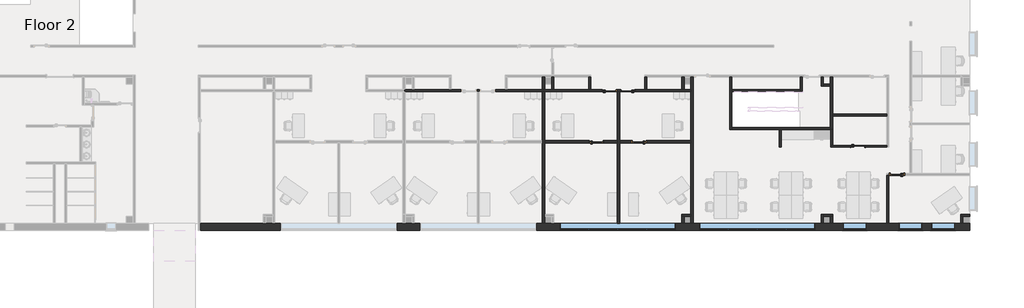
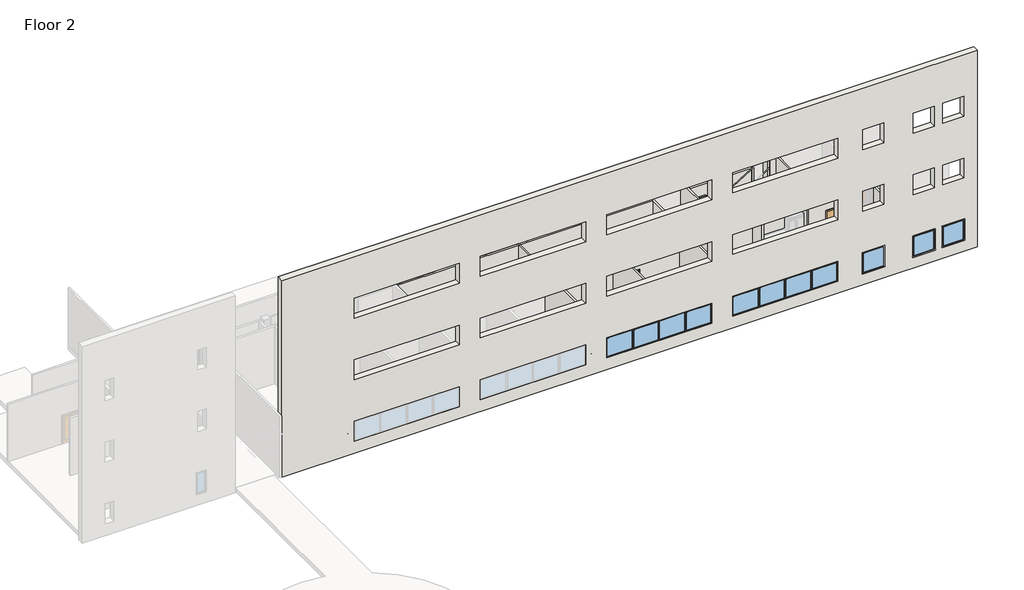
# One storey, part 3 of 7: 31 walls, 6 doors, 5 windows.
"""IFC4 building model written with IfcOpenShell, lengths in millimetres."""

from ifc_helpers import new_model, si_unit, frame, origin, place, context, project, spatial, polyline, outline, extrude, faceted_brep, transform, mapped, element, save
from components import door_a8315dbd, door_4cfbdd5f, door_4a7c4c71, door_dac99271, window_casement_multi_sash_horizontal_25_x_5ft_0e5d08e3, window_45f0c9e0

model = new_model("IFC4")

# Units and contexts
model_context = context("Model", 3, world=origin())
ifc_project = project(units=[si_unit("LENGTHUNIT", "METRE", prefix="MILLI")], contexts=[model_context])

# Site, building, storey
site = spatial("IfcSite", under=ifc_project)
building = spatial("IfcBuilding", under=site)
storey = spatial("IfcBuildingStorey", under=building, Name="Floor 2", Elevation=5486.4)

# Doors
placement = place(None, origin())
door_shape = door_a8315dbd(model_context)
element("IfcDoor", 1, ObjectType="Door-Passage-Single-Flush : 36\" x 84\"", at=placement, inside=storey, context=model_context, shape_type="MappedRepresentation", body=[
    mapped(door_shape, transform((54154.4192024, 43674.511889, 5486.4), x_axis=(1.0, 0.0, 0.0), y_axis=(0.0, 1.0, 0.0), z_axis=(0.0, 0.0, 1.0))),
])
door_2_shape = door_4cfbdd5f(model_context)
element("IfcDoor", 2, ObjectType="Door-Passage-Single-Full_Lite : 36\" x 84\"", at=placement, inside=storey, context=model_context, shape_type="MappedRepresentation", body=[
    mapped(door_2_shape, transform((37853.9692024, 47338.461889, 5486.4), x_axis=(1.0, 0.0, 0.0), y_axis=(0.0, 1.0, 0.0), z_axis=(0.0, 0.0, 1.0))),
])
element("IfcDoor", 3, ObjectType="Door-Passage-Single-Full_Lite : 36\" x 84\"", at=placement, inside=storey, context=model_context, shape_type="MappedRepresentation", body=[
    mapped(door_2_shape, transform((37015.7692024, 43985.661889, 5486.4), x_axis=(1.0, 0.0, 0.0), y_axis=(0.0, 1.0, 0.0), z_axis=(0.0, 0.0, 1.0))),
])
door_3_shape = door_4a7c4c71(model_context)
element("IfcDoor", 4, ObjectType="Door-Passage-Single-Full_Lite : 36\" x 84\"", at=placement, inside=storey, context=model_context, shape_type="MappedRepresentation", body=[
    mapped(door_3_shape, transform((39073.1692024, 47338.461889, 5486.4), x_axis=(-1.0, 0.0, 0.0), y_axis=(0.0, -1.0, 0.0), z_axis=(0.0, 0.0, 1.0))),
])
element("IfcDoor", 5, ObjectType="Door-Passage-Single-Full_Lite : 36\" x 84\"", at=placement, inside=storey, context=model_context, shape_type="MappedRepresentation", body=[
    mapped(door_3_shape, transform((39809.7692024, 43985.661889, 5486.4), x_axis=(-1.0, 0.0, 0.0), y_axis=(0.0, -1.0, 0.0), z_axis=(0.0, 0.0, 1.0))),
])
door_4_shape = door_dac99271(model_context)
element("IfcDoor", 6, ObjectType="Door-Passage-Single-Full_Lite : 36\" x 84\"", at=placement, inside=storey, context=model_context, shape_type="MappedRepresentation", body=[
    mapped(door_4_shape, transform((56719.8192024, 41845.711889, 5486.4), x_axis=(-1.0, 0.0, 0.0), y_axis=(0.0, -1.0, 0.0), z_axis=(0.0, 0.0, 1.0))),
])

# Walls
element("IfcWall", 7, ObjectType="Interior - 4 7/8\" Partition (1-hr)", at=placement, inside=storey, context=model_context, shape_type="Brep", body=[
    faceted_brep([(54662.4192024, 43618.949389, 7721.6), (54662.4192024, 43618.949389, 5486.4), (56048.3067024, 43618.949389, 5486.4), (56048.3067024, 43618.949389, 9906.0), (52371.6567024, 43618.949389, 9906.0), (52371.6567024, 43618.949389, 5486.4), (53646.4192024, 43618.949389, 5486.4), (53646.4192024, 43618.949389, 7721.6), (56048.3067024, 43742.774389, 5486.4), (54662.4192024, 43742.774389, 5486.4), (54662.4192024, 43742.774389, 7721.6), (53646.4192024, 43742.774389, 7721.6), (53646.4192024, 43742.774389, 5486.4), (52495.4817024, 43742.774389, 5486.4), (52371.6567024, 43742.774389, 5486.4), (52371.6567024, 43742.774389, 9906.0), (52495.4817024, 43742.774389, 9906.0), (56048.3067024, 43742.774389, 9906.0)], [[[0, 1, 2, 3, 4, 5, 6, 7]], [[8, 9, 10, 11, 12, 13, 14, 15, 16, 17]], [[2, 1, 9, 8]], [[6, 5, 14, 13, 12]], [[8, 17, 3, 2]], [[15, 14, 5, 4]], [[17, 16, 15, 4, 3]], [[10, 9, 1, 0]], [[11, 10, 0, 7]], [[12, 11, 7, 6]]]),
])
element("IfcWall", 8, ObjectType="Interior - 4 7/8\" Partition (1-hr)", at=placement, inside=storey, context=model_context, shape_type="SweptSolid", body=[
    extrude(outline(polyline([(52495.4817024, 44766.711889), (52495.4817024, 43742.774389), (52371.6567024, 43742.774389), (52371.6567024, 44766.711889), (52495.4817024, 44766.711889)])), frame((0.0, 0.0, 5486.4), z_axis=(0.0, 0.0, 1.0), x_axis=(1.0, 0.0, 0.0)), (0.0, 0.0, 1.0), 4419.6),
])
element("IfcWall", 9, ObjectType="Interior - 4 7/8\" Partition (1-hr)", at=placement, inside=storey, context=model_context, shape_type="SweptSolid", body=[
    extrude(outline(polyline([(49012.5067024, 43617.361889), (49012.5067024, 44766.711889), (49136.3317024, 44766.711889), (49136.3317024, 43617.361889), (49012.5067024, 43617.361889)])), frame((0.0, 0.0, 5486.4), z_axis=(0.0, 0.0, 1.0), x_axis=(1.0, 0.0, 0.0)), (0.0, 0.0, 1.0), 4419.6),
])
element("IfcWall", 10, ObjectType="Interior - 4 7/8\" Partition (1-hr)", at=placement, inside=storey, context=model_context, shape_type="SweptSolid", body=[
    extrude(outline(polyline([(52497.0692024, 45800.174389), (56048.3067024, 45800.174389), (56048.3067024, 45676.349389), (52497.0692024, 45676.349389), (52497.0692024, 45800.174389)])), frame((0.0, 0.0, 5486.4), z_axis=(0.0, 0.0, 1.0), x_axis=(1.0, 0.0, 0.0)), (0.0, 0.0, 1.0), 4419.6),
])
element("IfcWall", 11, ObjectType="Interior - 4 7/8\" Partition (1-hr)", at=placement, inside=storey, context=model_context, shape_type="SweptSolid", body=[
    extrude(outline(polyline([(56048.3067024, 38618.324389), (56048.3067024, 41777.449389), (56172.1317024, 41777.449389), (56172.1317024, 38618.324389), (56048.3067024, 38618.324389)])), frame((0.0, 0.0, 5486.4), z_axis=(0.0, 0.0, 1.0), x_axis=(1.0, 0.0, 0.0)), (0.0, 0.0, 1.0), 4419.6),
])
element("IfcWall", 12, ObjectType="Interior - 5 1/2\" Partition (1-hr)", at=placement, inside=storey, context=model_context, shape_type="Brep", body=[
    faceted_brep([(50382.5192024, 48221.111889, 5486.4), (50382.5192024, 47401.961889, 5486.4), (50382.5192024, 47262.261889, 5486.4), (50382.5192024, 47262.261889, 9906.0), (50382.5192024, 47401.961889, 9906.0), (50382.5192024, 48221.111889, 9906.0), (50522.2192024, 48221.111889, 5486.4), (50522.2192024, 48221.111889, 9906.0), (50522.2192024, 47262.261889, 9906.0), (50522.2192024, 47262.261889, 5486.4)], [[[0, 1, 2, 3, 4, 5]], [[6, 7, 8, 9]], [[2, 1, 0, 6, 9]], [[0, 5, 7, 6]], [[3, 2, 9, 8]], [[5, 4, 3, 8, 7]]]),
])
element("IfcWall", 13, ObjectType="Interior - 5 1/2\" Partition (1-hr)", at=placement, inside=storey, context=model_context, shape_type="Brep", body=[
    faceted_brep([(51760.4692024, 48221.111889, 5486.4), (51760.4692024, 47624.211889, 5486.4), (51760.4692024, 47624.211889, 9906.0), (51760.4692024, 48221.111889, 9906.0), (51900.1692024, 48221.111889, 5486.4), (51900.1692024, 48221.111889, 9906.0), (51900.1692024, 47763.911889, 9906.0), (51900.1692024, 47624.211889, 9906.0), (51900.1692024, 47624.211889, 5486.4), (51900.1692024, 47763.911889, 5486.4)], [[[0, 1, 2, 3]], [[4, 5, 6, 7, 8, 9]], [[1, 0, 4, 9, 8]], [[2, 1, 8, 7]], [[0, 3, 5, 4]], [[3, 2, 7, 6, 5]]]),
])
element("IfcWall", 14, ObjectType="Interior - 5 1/2\" Partition (1-hr)", at=placement, inside=storey, context=model_context, shape_type="SweptSolid", body=[
    extrude(outline(polyline([(51900.1692024, 47763.911889), (52357.3692024, 47763.911889), (52357.3692024, 47624.211889), (51900.1692024, 47624.211889), (51900.1692024, 47763.911889)])), frame((0.0, 0.0, 5486.4), z_axis=(0.0, 0.0, 1.0), x_axis=(1.0, 0.0, 0.0)), (0.0, 0.0, 1.0), 4419.6),
])
element("IfcWall", 15, ObjectType="Interior - 5 1/2\" Partition (1-hr)", at=placement, inside=storey, context=model_context, shape_type="Brep", body=[
    faceted_brep([(45759.7192024, 48221.111889, 5486.4), (45759.7192024, 44766.711889, 5486.4), (45759.7192024, 44766.711889, 9906.0), (45759.7192024, 48221.111889, 9906.0), (45899.4192024, 48221.111889, 5486.4), (45899.4192024, 48221.111889, 9906.0), (45899.4192024, 47401.961889, 9906.0), (45899.4192024, 47262.261889, 9906.0), (45899.4192024, 44906.411889, 9906.0), (45899.4192024, 44766.711889, 9906.0), (45899.4192024, 44766.711889, 5486.4), (45899.4192024, 44906.411889, 5486.4), (45899.4192024, 47262.261889, 5486.4), (45899.4192024, 47401.961889, 5486.4)], [[[0, 1, 2, 3]], [[4, 5, 6, 7, 8, 9, 10, 11, 12, 13]], [[1, 0, 4, 13, 12, 11, 10]], [[2, 1, 10, 9]], [[0, 3, 5, 4]], [[3, 2, 9, 8, 7, 6, 5]]]),
])
element("IfcWall", 16, ObjectType="Interior - 5 1/2\" Partition (1-hr)", at=placement, inside=storey, context=model_context, shape_type="Brep", body=[
    faceted_brep([(45899.4192024, 44766.711889, 5486.4), (49012.5067024, 44766.711889, 5486.4), (49136.3317024, 44766.711889, 5486.4), (52357.3692024, 44766.711889, 5486.4), (52357.3692024, 44766.711889, 9906.0), (49136.3317024, 44766.711889, 9906.0), (49012.5067024, 44766.711889, 9906.0), (45899.4192024, 44766.711889, 9906.0), (45899.4192024, 44906.411889, 5486.4), (45899.4192024, 44906.411889, 9906.0), (50327.5398084, 44906.411889, 9906.0), (52357.3692024, 44906.411889, 9906.0), (52357.3692024, 44906.411889, 5486.4)], [[[0, 1, 2, 3, 4, 5, 6, 7]], [[8, 9, 10, 11, 12]], [[3, 2, 1, 0, 8, 12]], [[0, 7, 9, 8]], [[4, 3, 12, 11]], [[7, 6, 5, 4, 11, 10, 9]]]),
])
element("IfcWall", 17, ObjectType="Interior - 5 1/2\" Partition (1-hr)", at=placement, inside=storey, context=model_context, shape_type="Brep", body=[
    faceted_brep([(45899.4192024, 47262.261889, 5486.4), (50382.5192024, 47262.261889, 5486.4), (50382.5192024, 47262.261889, 9906.0), (50269.50061, 47262.261889, 9906.0), (50253.8139908, 47262.261889, 9906.0), (45899.4192024, 47262.261889, 9906.0), (45899.4192024, 47401.961889, 5486.4), (45899.4192024, 47401.961889, 9906.0), (50382.5192024, 47401.961889, 9906.0), (50382.5192024, 47401.961889, 5486.4)], [[[0, 1, 2, 3, 4, 5]], [[6, 7, 8, 9]], [[1, 0, 6, 9]], [[2, 1, 9, 8]], [[0, 5, 7, 6]], [[5, 4, 3, 2, 8, 7]]]),
])
element("IfcWall", 18, ObjectType="Interior - 5 1/2\" Partition (1-hr)", at=placement, inside=storey, context=model_context, shape_type="Brep", body=[
    faceted_brep([(43213.3692024, 48221.111889, 5486.4), (43213.3692024, 47763.911889, 5486.4), (43213.3692024, 47401.961889, 5486.4), (43213.3692024, 47262.261889, 5486.4), (43213.3692024, 44049.161889, 5486.4), (43213.3692024, 43909.461889, 5486.4), (43213.3692024, 39216.811889, 5486.4), (43213.3692024, 39077.111889, 5486.4), (43213.3692024, 38619.911889, 5486.4), (43213.3692024, 38618.324389, 5486.4), (43213.3692024, 38618.324389, 9906.0), (43213.3692024, 39077.111889, 9906.0), (43213.3692024, 39216.811889, 9906.0), (43213.3692024, 43909.461889, 9906.0), (43213.3692024, 44049.161889, 9906.0), (43213.3692024, 47262.261889, 9906.0), (43213.3692024, 47401.961889, 9906.0), (43213.3692024, 48221.111889, 9906.0), (43353.0692024, 48221.111889, 5486.4), (43353.0692024, 48221.111889, 9906.0), (43353.0692024, 38618.324389, 9906.0), (43353.0692024, 38618.324389, 5486.4)], [[[0, 1, 2, 3, 4, 5, 6, 7, 8, 9, 10, 11, 12, 13, 14, 15, 16, 17]], [[18, 19, 20, 21]], [[9, 8, 7, 6, 5, 4, 3, 2, 1, 0, 18, 21]], [[10, 9, 21, 20]], [[0, 17, 19, 18]], [[17, 16, 15, 14, 13, 12, 11, 10, 20, 19]]]),
])
element("IfcWall", 19, ObjectType="Interior - 5 1/2\" Partition (1-hr)", at=placement, inside=storey, context=model_context, shape_type="Brep", body=[
    faceted_brep([(43213.3692024, 39216.811889, 5486.4), (42616.4692024, 39216.811889, 5486.4), (42616.4692024, 39216.811889, 9906.0), (43213.3692024, 39216.811889, 9906.0), (43213.3692024, 39077.111889, 5486.4), (43213.3692024, 39077.111889, 9906.0), (42756.1692024, 39077.111889, 9906.0), (42616.4692024, 39077.111889, 9906.0), (42616.4692024, 39077.111889, 5486.4), (42756.1692024, 39077.111889, 5486.4)], [[[0, 1, 2, 3]], [[4, 5, 6, 7, 8, 9]], [[1, 0, 4, 9, 8]], [[2, 1, 8, 7]], [[0, 3, 5, 4]], [[3, 2, 7, 6, 5]]]),
])
element("IfcWall", 20, ObjectType="Interior - 5 1/2\" Partition (1-hr)", at=placement, inside=storey, context=model_context, shape_type="Brep", body=[
    faceted_brep([(42616.4692024, 39077.111889, 5486.4), (42616.4692024, 38618.324389, 5486.4), (42616.4692024, 38618.324389, 9906.0), (42616.4692024, 39077.111889, 9906.0), (42756.1692024, 39077.111889, 5486.4), (42756.1692024, 39077.111889, 9906.0), (42756.1692024, 38618.324389, 9906.0), (42756.1692024, 38618.324389, 5486.4), (42756.1692024, 38619.911889, 5486.4)], [[[0, 1, 2, 3]], [[4, 5, 6, 7, 8]], [[1, 0, 4, 8, 7]], [[0, 3, 5, 4]], [[2, 1, 7, 6]], [[3, 2, 6, 5]]]),
])
element("IfcWall", 21, ObjectType="Interior - 5 1/2\" Partition (1-hr)", at=placement, inside=storey, context=model_context, shape_type="Brep", body=[
    faceted_brep([(24398.3192024, 47401.961889, 9906.0), (24398.3192024, 47401.961889, 5486.4), (24398.3192024, 47262.261889, 5486.4), (24398.3192024, 47262.261889, 9906.0), (29167.1692024, 47262.261889, 7721.6), (29167.1692024, 47262.261889, 5486.4), (29198.9192024, 47262.261889, 5486.4), (29338.6192024, 47262.261889, 5486.4), (29370.3692024, 47262.261889, 5486.4), (29370.3692024, 47262.261889, 7721.6), (30386.3692024, 47262.261889, 7721.6), (30386.3692024, 47262.261889, 5486.4), (33472.4692024, 47262.261889, 5486.4), (33612.1692024, 47262.261889, 5486.4), (37345.9692024, 47262.261889, 5486.4), (37345.9692024, 47262.261889, 7721.6), (38361.9692024, 47262.261889, 7721.6), (38361.9692024, 47262.261889, 5486.4), (38393.7192024, 47262.261889, 5486.4), (38533.4192024, 47262.261889, 5486.4), (38565.1692024, 47262.261889, 5486.4), (38565.1692024, 47262.261889, 7721.6), (39581.1692024, 47262.261889, 7721.6), (39581.1692024, 47262.261889, 5486.4), (43213.3692024, 47262.261889, 5486.4), (43213.3692024, 47262.261889, 9906.0), (38533.4192024, 47262.261889, 9906.0), (38393.7192024, 47262.261889, 9906.0), (33612.1692024, 47262.261889, 9906.0), (33472.4692024, 47262.261889, 9906.0), (24468.1692024, 47262.261889, 5486.4), (28151.1692024, 47262.261889, 5486.4), (28151.1692024, 47262.261889, 7721.6), (29370.3692024, 47401.961889, 5486.4), (29167.1692024, 47401.961889, 5486.4), (29167.1692024, 47401.961889, 7721.6), (28151.1692024, 47401.961889, 7721.6), (28151.1692024, 47401.961889, 5486.4), (27503.4692024, 47401.961889, 5486.4), (27363.7692024, 47401.961889, 5486.4), (25065.0692024, 47401.961889, 5486.4), (24925.3692024, 47401.961889, 5486.4), (24468.1692024, 47401.961889, 5486.4), (24468.1692024, 47401.961889, 9906.0), (24925.3692024, 47401.961889, 9906.0), (25065.0692024, 47401.961889, 9906.0), (27363.7692024, 47401.961889, 9906.0), (27503.4692024, 47401.961889, 9906.0), (31034.0692024, 47401.961889, 9906.0), (31173.7692024, 47401.961889, 9906.0), (33472.4692024, 47401.961889, 9906.0), (33612.1692024, 47401.961889, 9906.0), (34069.3692024, 47401.961889, 9906.0), (34209.0692024, 47401.961889, 9906.0), (36507.7692024, 47401.961889, 9906.0), (36647.4692024, 47401.961889, 9906.0), (40178.0692024, 47401.961889, 9906.0), (40317.7692024, 47401.961889, 9906.0), (42616.4692024, 47401.961889, 9906.0), (42756.1692024, 47401.961889, 9906.0), (43213.3692024, 47401.961889, 9906.0), (43213.3692024, 47401.961889, 5486.4), (42756.1692024, 47401.961889, 5486.4), (42616.4692024, 47401.961889, 5486.4), (40317.7692024, 47401.961889, 5486.4), (40178.0692024, 47401.961889, 5486.4), (39581.1692024, 47401.961889, 5486.4), (39581.1692024, 47401.961889, 7721.6), (38565.1692024, 47401.961889, 7721.6), (38565.1692024, 47401.961889, 5486.4), (38361.9692024, 47401.961889, 5486.4), (38361.9692024, 47401.961889, 7721.6), (37345.9692024, 47401.961889, 7721.6), (37345.9692024, 47401.961889, 5486.4), (36647.4692024, 47401.961889, 5486.4), (36507.7692024, 47401.961889, 5486.4), (34209.0692024, 47401.961889, 5486.4), (34069.3692024, 47401.961889, 5486.4), (33612.1692024, 47401.961889, 5486.4), (33472.4692024, 47401.961889, 5486.4), (31173.7692024, 47401.961889, 5486.4), (31034.0692024, 47401.961889, 5486.4), (30386.3692024, 47401.961889, 5486.4), (30386.3692024, 47401.961889, 7721.6), (29370.3692024, 47401.961889, 7721.6)], [[[0, 1, 2, 3]], [[4, 5, 6, 7, 8, 9, 10, 11, 12, 13, 14, 15, 16, 17, 18, 19, 20, 21, 22, 23, 24, 25, 26, 27, 28, 29, 3, 2, 30, 31, 32]], [[33, 34, 35, 36, 37, 38, 39, 40, 41, 42, 1, 0, 43, 44, 45, 46, 47, 48, 49, 50, 51, 52, 53, 54, 55, 56, 57, 58, 59, 60, 61, 62, 63, 64, 65, 66, 67, 68, 69, 70, 71, 72, 73, 74, 75, 76, 77, 78, 79, 80, 81, 82, 83, 84]], [[70, 69, 20, 19, 18, 17]], [[8, 7, 6, 5, 34, 33]], [[66, 65, 64, 63, 62, 61, 24, 23]], [[82, 81, 80, 79, 78, 77, 76, 75, 74, 73, 14, 13, 12, 11]], [[31, 30, 2, 1, 42, 41, 40, 39, 38, 37]], [[61, 60, 25, 24]], [[60, 59, 58, 57, 56, 55, 54, 53, 52, 51, 50, 49, 48, 47, 46, 45, 44, 43, 0, 3, 29, 28, 27, 26, 25]], [[71, 70, 17, 16]], [[72, 71, 16, 15]], [[73, 72, 15, 14]], [[21, 20, 69, 68]], [[22, 21, 68, 67]], [[23, 22, 67, 66]], [[9, 8, 33, 84]], [[10, 9, 84, 83]], [[11, 10, 83, 82]], [[35, 34, 5, 4]], [[36, 35, 4, 32]], [[37, 36, 32, 31]]]),
])
element("IfcWall", 22, ObjectType="Interior - 5 1/2\" Partition (1-hr)", at=placement, inside=storey, context=model_context, shape_type="Brep", body=[
    faceted_brep([(42756.1692024, 47401.961889, 5486.4), (42756.1692024, 47763.911889, 5486.4), (42756.1692024, 48221.111889, 5486.4), (42756.1692024, 48221.111889, 9906.0), (42756.1692024, 47401.961889, 9906.0), (42616.4692024, 47401.961889, 5486.4), (42616.4692024, 47401.961889, 9906.0), (42616.4692024, 48221.111889, 9906.0), (42616.4692024, 48221.111889, 5486.4)], [[[0, 1, 2, 3, 4]], [[5, 6, 7, 8]], [[2, 1, 0, 5, 8]], [[0, 4, 6, 5]], [[3, 2, 8, 7]], [[4, 3, 7, 6]]]),
])
element("IfcWall", 23, ObjectType="Interior - 5 1/2\" Partition (1-hr)", at=placement, inside=storey, context=model_context, shape_type="Brep", body=[
    faceted_brep([(34209.0692024, 47401.961889, 5486.4), (34209.0692024, 48221.111889, 5486.4), (34209.0692024, 48221.111889, 9906.0), (34209.0692024, 47401.961889, 9906.0), (34069.3692024, 47401.961889, 5486.4), (34069.3692024, 47401.961889, 9906.0), (34069.3692024, 48221.111889, 9906.0), (34069.3692024, 48221.111889, 5486.4), (34069.3692024, 47763.911889, 5486.4)], [[[0, 1, 2, 3]], [[4, 5, 6, 7, 8]], [[1, 0, 4, 8, 7]], [[0, 3, 5, 4]], [[2, 1, 7, 6]], [[3, 2, 6, 5]]]),
])
element("IfcWall", 24, ObjectType="Interior - 5 1/2\" Partition (1-hr)", at=placement, inside=storey, context=model_context, shape_type="Brep", body=[
    faceted_brep([(33612.1692024, 47401.961889, 5486.4), (33612.1692024, 47763.911889, 5486.4), (33612.1692024, 48221.111889, 5486.4), (33612.1692024, 48221.111889, 9906.0), (33612.1692024, 47401.961889, 9906.0), (33472.4692024, 47401.961889, 5486.4), (33472.4692024, 47401.961889, 9906.0), (33472.4692024, 48221.111889, 9906.0), (33472.4692024, 48221.111889, 5486.4)], [[[0, 1, 2, 3, 4]], [[5, 6, 7, 8]], [[2, 1, 0, 5, 8]], [[0, 4, 6, 5]], [[3, 2, 8, 7]], [[4, 3, 7, 6]]]),
])
element("IfcWall", 25, ObjectType="Interior - 5 1/2\" Partition (1-hr)", at=placement, inside=storey, context=model_context, shape_type="SweptSolid", body=[
    extrude(outline(polyline([(36647.4692024, 48221.111889), (36647.4692024, 47401.961889), (36507.7692024, 47401.961889), (36507.7692024, 48221.111889), (36647.4692024, 48221.111889)])), frame((0.0, 0.0, 5486.4), z_axis=(0.0, 0.0, 1.0), x_axis=(1.0, 0.0, 0.0)), (0.0, 0.0, 1.0), 4419.6),
])
element("IfcWall", 26, ObjectType="Interior - 5 1/2\" Partition (1-hr)", at=placement, inside=storey, context=model_context, shape_type="SweptSolid", body=[
    extrude(outline(polyline([(40317.7692024, 48221.111889), (40317.7692024, 47401.961889), (40178.0692024, 47401.961889), (40178.0692024, 48221.111889), (40317.7692024, 48221.111889)])), frame((0.0, 0.0, 5486.4), z_axis=(0.0, 0.0, 1.0), x_axis=(1.0, 0.0, 0.0)), (0.0, 0.0, 1.0), 4419.6),
])
element("IfcWall", 27, ObjectType="Interior - 5 1/2\" Partition (1-hr)", at=placement, inside=storey, context=model_context, shape_type="Brep", body=[
    faceted_brep([(33472.4692024, 47262.261889, 5486.4), (33472.4692024, 44049.161889, 5486.4), (33472.4692024, 43909.461889, 5486.4), (33472.4692024, 38618.324389, 5486.4), (33472.4692024, 38618.324389, 9906.0), (33472.4692024, 47262.261889, 9906.0), (33612.1692024, 47262.261889, 5486.4), (33612.1692024, 47262.261889, 9906.0), (33612.1692024, 44049.161889, 9906.0), (33612.1692024, 43909.461889, 9906.0), (33612.1692024, 39216.811889, 9906.0), (33612.1692024, 39077.111889, 9906.0), (33612.1692024, 38618.324389, 9906.0), (33612.1692024, 38618.324389, 5486.4), (33612.1692024, 38619.911889, 5486.4), (33612.1692024, 39077.111889, 5486.4), (33612.1692024, 39216.811889, 5486.4), (33612.1692024, 43909.461889, 5486.4), (33612.1692024, 44049.161889, 5486.4)], [[[0, 1, 2, 3, 4, 5]], [[6, 7, 8, 9, 10, 11, 12, 13, 14, 15, 16, 17, 18]], [[3, 2, 1, 0, 6, 18, 17, 16, 15, 14, 13]], [[0, 5, 7, 6]], [[4, 3, 13, 12]], [[5, 4, 12, 11, 10, 9, 8, 7]]]),
])
element("IfcWall", 28, ObjectType="Interior - 5 1/2\" Partition (1-hr)", at=placement, inside=storey, context=model_context, shape_type="Brep", body=[
    faceted_brep([(51900.1692024, 38618.324389, 5486.4), (51900.1692024, 38619.911889, 5486.4), (51900.1692024, 39077.111889, 5486.4), (51900.1692024, 39216.811889, 5486.4), (51900.1692024, 39216.811889, 9906.0), (51900.1692024, 39077.111889, 9906.0), (51900.1692024, 38618.324389, 9906.0), (51760.4692024, 38618.324389, 5486.4), (51760.4692024, 38618.324389, 9906.0), (51760.4692024, 39216.811889, 9906.0), (51760.4692024, 39216.811889, 5486.4)], [[[0, 1, 2, 3, 4, 5, 6]], [[7, 8, 9, 10]], [[3, 2, 1, 0, 7, 10]], [[4, 3, 10, 9]], [[0, 6, 8, 7]], [[6, 5, 4, 9, 8]]]),
])
element("IfcWall", 29, ObjectType="Interior - 5 1/2\" Partition (1-hr)", at=placement, inside=storey, context=model_context, shape_type="Brep", body=[
    faceted_brep([(51900.1692024, 39077.111889, 5486.4), (52357.3692024, 39077.111889, 5486.4), (52497.0692024, 39077.111889, 5486.4), (52497.0692024, 39077.111889, 9906.0), (52357.3692024, 39077.111889, 9906.0), (51900.1692024, 39077.111889, 9906.0), (51900.1692024, 39216.811889, 5486.4), (51900.1692024, 39216.811889, 9906.0), (52497.0692024, 39216.811889, 9906.0), (52497.0692024, 39216.811889, 5486.4)], [[[0, 1, 2, 3, 4, 5]], [[6, 7, 8, 9]], [[2, 1, 0, 6, 9]], [[3, 2, 9, 8]], [[0, 5, 7, 6]], [[5, 4, 3, 8, 7]]]),
])
element("IfcWall", 30, ObjectType="Interior - 5 1/2\" Partition (1-hr)", at=placement, inside=storey, context=model_context, shape_type="Brep", body=[
    faceted_brep([(52357.3692024, 39077.111889, 5486.4), (52357.3692024, 38619.911889, 5486.4), (52357.3692024, 38618.324389, 5486.4), (52357.3692024, 38618.324389, 9906.0), (52357.3692024, 39077.111889, 9906.0), (52497.0692024, 39077.111889, 5486.4), (52497.0692024, 39077.111889, 9906.0), (52497.0692024, 38618.324389, 9906.0), (52497.0692024, 38618.324389, 5486.4)], [[[0, 1, 2, 3, 4]], [[5, 6, 7, 8]], [[2, 1, 0, 5, 8]], [[0, 4, 6, 5]], [[3, 2, 8, 7]], [[4, 3, 7, 6]]]),
])
element("IfcWall", 31, ObjectType="Interior - 5 1/2\" Partition (1-hr)", at=placement, inside=storey, context=model_context, shape_type="Brep", body=[
    faceted_brep([(61502.9567024, 39216.811889, 5486.4), (60904.4692024, 39216.811889, 5486.4), (60904.4692024, 39216.811889, 9906.0), (61502.9567024, 39216.811889, 9906.0), (61502.9567024, 39077.111889, 5486.4), (61502.9567024, 39077.111889, 9906.0), (61044.1692024, 39077.111889, 9906.0), (60904.4692024, 39077.111889, 9906.0), (60904.4692024, 39077.111889, 5486.4), (61044.1692024, 39077.111889, 5486.4), (61501.3692024, 39077.111889, 5486.4)], [[[0, 1, 2, 3]], [[4, 5, 6, 7, 8, 9, 10]], [[1, 0, 4, 10, 9, 8]], [[2, 1, 8, 7]], [[0, 3, 5, 4]], [[3, 2, 7, 6, 5]]]),
])
element("IfcWall", 32, ObjectType="Interior - 5 1/2\" Partition (1-hr)", at=placement, inside=storey, context=model_context, shape_type="Brep", body=[
    faceted_brep([(60904.4692024, 39077.111889, 5486.4), (60904.4692024, 38618.324389, 5486.4), (60904.4692024, 38618.324389, 9906.0), (60904.4692024, 39077.111889, 9906.0), (61044.1692024, 39077.111889, 5486.4), (61044.1692024, 39077.111889, 9906.0), (61044.1692024, 38618.324389, 9906.0), (61044.1692024, 38618.324389, 5486.4), (61044.1692024, 38619.911889, 5486.4)], [[[0, 1, 2, 3]], [[4, 5, 6, 7, 8]], [[1, 0, 4, 8, 7]], [[0, 3, 5, 4]], [[2, 1, 7, 6]], [[3, 2, 6, 5]]]),
])
element("IfcWall", 33, ObjectType="Interior - 5 1/2\" Partition (1-hr)", at=placement, inside=storey, context=model_context, shape_type="Brep", body=[
    faceted_brep([(38393.7192024, 47262.261889, 5486.4), (38393.7192024, 44049.161889, 5486.4), (38393.7192024, 43909.461889, 5486.4), (38393.7192024, 38618.324389, 5486.4), (38393.7192024, 38618.324389, 9906.0), (38393.7192024, 43909.461889, 9906.0), (38393.7192024, 44049.161889, 9906.0), (38393.7192024, 47262.261889, 9906.0), (38533.4192024, 47262.261889, 5486.4), (38533.4192024, 47262.261889, 9906.0), (38533.4192024, 44049.161889, 9906.0), (38533.4192024, 43909.461889, 9906.0), (38533.4192024, 38618.324389, 9906.0), (38533.4192024, 38618.324389, 5486.4), (38533.4192024, 43909.461889, 5486.4), (38533.4192024, 44049.161889, 5486.4)], [[[0, 1, 2, 3, 4, 5, 6, 7]], [[8, 9, 10, 11, 12, 13, 14, 15]], [[3, 2, 1, 0, 8, 15, 14, 13]], [[0, 7, 9, 8]], [[4, 3, 13, 12]], [[7, 6, 5, 4, 12, 11, 10, 9]]]),
])
element("IfcWall", 34, ObjectType="Interior - 5 1/2\" Partition (1-hr)", at=placement, inside=storey, context=model_context, shape_type="SweptSolid", body=[
    extrude(outline(polyline([(7721.6, 37523.7692024), (5486.4, 37523.7692024), (5486.4, 38393.7192024), (9906.0, 38393.7192024), (9906.0, 33612.1692024), (5486.4, 33612.1692024), (5486.4, 36507.7692024), (7721.6, 36507.7692024), (7721.6, 37523.7692024)])), frame((0.0, 43909.461889, 0.0), z_axis=(0.0, 1.0, 0.0), x_axis=(0.0, 0.0, 1.0)), (0.0, 0.0, 1.0), 139.7),
])
element("IfcWall", 35, ObjectType="Interior - 5 1/2\" Partition (1-hr)", at=placement, inside=storey, context=model_context, shape_type="SweptSolid", body=[
    extrude(outline(polyline([(5486.4, 38533.4192024), (5486.4, 39301.7692024), (7721.6, 39301.7692024), (7721.6, 40317.7692024), (5486.4, 40317.7692024), (5486.4, 43213.3692024), (9906.0, 43213.3692024), (9906.0, 38533.4192024), (5486.4, 38533.4192024)])), frame((0.0, 43909.461889, 0.0), z_axis=(0.0, 1.0, 0.0), x_axis=(0.0, 0.0, 1.0)), (0.0, 0.0, 1.0), 139.7),
])
element("IfcWall", 36, ObjectType="Interior - 5 1/2\" Partition (1-hr)", at=placement, inside=storey, context=model_context, shape_type="Brep", body=[
    faceted_brep([(52357.3692024, 48221.111889, 5486.4), (52357.3692024, 47763.911889, 5486.4), (52357.3692024, 47624.211889, 5486.4), (52357.3692024, 44906.411889, 5486.4), (52357.3692024, 44766.711889, 5486.4), (52357.3692024, 44766.711889, 9906.0), (52357.3692024, 44906.411889, 9906.0), (52357.3692024, 47624.211889, 9906.0), (52357.3692024, 47763.911889, 9906.0), (52357.3692024, 48221.111889, 9906.0), (52497.0692024, 48221.111889, 5486.4), (52497.0692024, 48221.111889, 9906.0), (52497.0692024, 45800.174389, 9906.0), (52497.0692024, 45676.349389, 9906.0), (52497.0692024, 44766.711889, 9906.0), (52497.0692024, 44766.711889, 5486.4), (52497.0692024, 45676.349389, 5486.4), (52497.0692024, 45800.174389, 5486.4), (52495.4817024, 44766.711889, 5486.4), (52371.6567024, 44766.711889, 5486.4), (52495.4817024, 44766.711889, 9906.0), (52371.6567024, 44766.711889, 9906.0)], [[[0, 1, 2, 3, 4, 5, 6, 7, 8, 9]], [[10, 11, 12, 13, 14, 15, 16, 17]], [[4, 3, 2, 1, 0, 10, 17, 16, 15, 18, 19]], [[5, 4, 19, 18, 15, 14, 20, 21]], [[0, 9, 11, 10]], [[9, 8, 7, 6, 5, 21, 20, 14, 13, 12, 11]]]),
])
element("IfcWall", 37, ObjectType="Stone on CMU", at=placement, inside=storey, context=model_context, shape_type="Brep", body=[
    faceted_brep([(61502.9567024, 38618.324389, 20574.0), (11050.6192024, 38618.324389, 20574.0), (11050.6192024, 38164.299389, 20574.0), (61502.9567024, 38164.299389, 20574.0), (61502.9567024, 38618.324389, 5486.4), (61044.1692024, 38618.324389, 5486.4), (60904.4692024, 38618.324389, 5486.4), (56172.1317024, 38618.324389, 5486.4), (56048.3067024, 38618.324389, 5486.4), (52497.0692024, 38618.324389, 5486.4), (52357.3692024, 38618.324389, 5486.4), (51900.1692024, 38618.324389, 5486.4), (51760.4692024, 38618.324389, 5486.4), (51444.5567024, 38618.324389, 5486.4), (43353.0692024, 38618.324389, 5486.4), (43213.3692024, 38618.324389, 5486.4), (42756.1692024, 38618.324389, 5486.4), (42616.4692024, 38618.324389, 5486.4), (38533.4192024, 38618.324389, 5486.4), (38393.7192024, 38618.324389, 5486.4), (34209.0692024, 38618.324389, 5486.4), (34069.3692024, 38618.324389, 5486.4), (33612.1692024, 38618.324389, 5486.4), (33472.4692024, 38618.324389, 5486.4), (29338.6192024, 38618.324389, 5486.4), (29198.9192024, 38618.324389, 5486.4), (25065.0692024, 38618.324389, 5486.4), (24925.3692024, 38618.324389, 5486.4), (24468.1692024, 38618.324389, 5486.4), (24328.4692024, 38618.324389, 5486.4), (20194.6192024, 38618.324389, 5486.4), (20054.9192024, 38618.324389, 5486.4), (15921.0692024, 38618.324389, 5486.4), (15781.3692024, 38618.324389, 5486.4), (15324.1692024, 38618.324389, 5486.4), (15184.4692024, 38618.324389, 5486.4), (11050.6192024, 38618.324389, 5486.4), (58980.4192024, 38618.324389, 7924.8), (58980.4192024, 38618.324389, 6400.8), (60504.4192024, 38618.324389, 6400.8), (60504.4192024, 38618.324389, 7924.8), (56846.8192024, 38618.324389, 7924.8), (56846.8192024, 38618.324389, 6400.8), (58370.8192024, 38618.324389, 6400.8), (58370.8192024, 38618.324389, 7924.8), (53189.2192024, 38618.324389, 7924.8), (53189.2192024, 38618.324389, 6400.8), (54713.2192024, 38618.324389, 6400.8), (54713.2192024, 38618.324389, 7924.8), (58980.4192024, 38618.324389, 12649.2), (58980.4192024, 38618.324389, 11125.2), (60504.4192024, 38618.324389, 11125.2), (60504.4192024, 38618.324389, 12649.2), (56846.8192024, 38618.324389, 12649.2), (56846.8192024, 38618.324389, 11125.2), (58370.8192024, 38618.324389, 11125.2), (58370.8192024, 38618.324389, 12649.2), (53189.2192024, 38618.324389, 12649.2), (53189.2192024, 38618.324389, 11125.2), (54713.2192024, 38618.324389, 11125.2), (54713.2192024, 38618.324389, 12649.2), (58980.4192024, 38618.324389, 17373.6), (58980.4192024, 38618.324389, 15849.6), (60504.4192024, 38618.324389, 15849.6), (60504.4192024, 38618.324389, 17373.6), (56846.8192024, 38618.324389, 17373.6), (56846.8192024, 38618.324389, 15849.6), (58370.8192024, 38618.324389, 15849.6), (58370.8192024, 38618.324389, 17373.6), (53189.2192024, 38618.324389, 17373.6), (53189.2192024, 38618.324389, 15849.6), (54713.2192024, 38618.324389, 15849.6), (54713.2192024, 38618.324389, 17373.6), (43746.7692024, 38618.324389, 17373.6), (43746.7692024, 38618.324389, 15849.6), (51366.7692024, 38618.324389, 15849.6), (51366.7692024, 38618.324389, 17373.6), (43746.7692024, 38618.324389, 12649.2), (43746.7692024, 38618.324389, 11125.2), (51366.7692024, 38618.324389, 11125.2), (51366.7692024, 38618.324389, 12649.2), (43746.7692024, 38618.324389, 7924.8), (43746.7692024, 38618.324389, 6400.8), (51366.7692024, 38618.324389, 6400.8), (51366.7692024, 38618.324389, 7924.8), (34602.7692024, 38618.324389, 17373.6), (34602.7692024, 38618.324389, 15849.6), (42222.7692024, 38618.324389, 15849.6), (42222.7692024, 38618.324389, 17373.6), (34602.7692024, 38618.324389, 12649.2), (34602.7692024, 38618.324389, 11125.2), (42222.7692024, 38618.324389, 11125.2), (42222.7692024, 38618.324389, 12649.2), (34602.7692024, 38618.324389, 7924.8), (34602.7692024, 38618.324389, 6400.8), (42222.7692024, 38618.324389, 6400.8), (42222.7692024, 38618.324389, 7924.8), (25458.7692024, 38618.324389, 17373.6), (25458.7692024, 38618.324389, 15849.6), (33078.7692024, 38618.324389, 15849.6), (33078.7692024, 38618.324389, 17373.6), (25458.7692024, 38618.324389, 12649.2), (25458.7692024, 38618.324389, 11125.2), (33078.7692024, 38618.324389, 11125.2), (33078.7692024, 38618.324389, 12649.2), (25458.7692024, 38618.324389, 7924.8), (25458.7692024, 38618.324389, 6400.8), (33078.7692024, 38618.324389, 6400.8), (33078.7692024, 38618.324389, 7924.8), (16314.7692024, 38618.324389, 17373.6), (16314.7692024, 38618.324389, 15849.6), (23934.7692024, 38618.324389, 15849.6), (23934.7692024, 38618.324389, 17373.6), (16314.7692024, 38618.324389, 12649.2), (16314.7692024, 38618.324389, 11125.2), (23934.7692024, 38618.324389, 11125.2), (23934.7692024, 38618.324389, 12649.2), (16314.7692024, 38618.324389, 7924.8), (16314.7692024, 38618.324389, 6400.8), (23934.7692024, 38618.324389, 6400.8), (23934.7692024, 38618.324389, 7924.8), (61502.9567024, 38164.299389, 5486.4), (11050.6192024, 38164.299389, 10210.8), (11050.6192024, 38164.299389, 5486.4), (51444.5567024, 38164.299389, 5486.4), (58980.4192024, 38164.299389, 7924.8), (60504.4192024, 38164.299389, 7924.8), (60504.4192024, 38164.299389, 6400.8), (58980.4192024, 38164.299389, 6400.8), (56846.8192024, 38164.299389, 7924.8), (58370.8192024, 38164.299389, 7924.8), (58370.8192024, 38164.299389, 6400.8), (56846.8192024, 38164.299389, 6400.8), (53189.2192024, 38164.299389, 7924.8), (54713.2192024, 38164.299389, 7924.8), (54713.2192024, 38164.299389, 6400.8), (53189.2192024, 38164.299389, 6400.8), (58980.4192024, 38164.299389, 12649.2), (60504.4192024, 38164.299389, 12649.2), (60504.4192024, 38164.299389, 11125.2), (58980.4192024, 38164.299389, 11125.2), (56846.8192024, 38164.299389, 12649.2), (58370.8192024, 38164.299389, 12649.2), (58370.8192024, 38164.299389, 11125.2), (56846.8192024, 38164.299389, 11125.2), (53189.2192024, 38164.299389, 12649.2), (54713.2192024, 38164.299389, 12649.2), (54713.2192024, 38164.299389, 11125.2), (53189.2192024, 38164.299389, 11125.2), (58980.4192024, 38164.299389, 17373.6), (60504.4192024, 38164.299389, 17373.6), (60504.4192024, 38164.299389, 15849.6), (58980.4192024, 38164.299389, 15849.6), (56846.8192024, 38164.299389, 17373.6), (58370.8192024, 38164.299389, 17373.6), (58370.8192024, 38164.299389, 15849.6), (56846.8192024, 38164.299389, 15849.6), (53189.2192024, 38164.299389, 17373.6), (54713.2192024, 38164.299389, 17373.6), (54713.2192024, 38164.299389, 15849.6), (53189.2192024, 38164.299389, 15849.6), (43746.7692024, 38164.299389, 17373.6), (51366.7692024, 38164.299389, 17373.6), (51366.7692024, 38164.299389, 15849.6), (43746.7692024, 38164.299389, 15849.6), (43746.7692024, 38164.299389, 12649.2), (51366.7692024, 38164.299389, 12649.2), (51366.7692024, 38164.299389, 11125.2), (43746.7692024, 38164.299389, 11125.2), (43746.7692024, 38164.299389, 7924.8), (51366.7692024, 38164.299389, 7924.8), (51366.7692024, 38164.299389, 6400.8), (43746.7692024, 38164.299389, 6400.8), (34602.7692024, 38164.299389, 17373.6), (42222.7692024, 38164.299389, 17373.6), (42222.7692024, 38164.299389, 15849.6), (34602.7692024, 38164.299389, 15849.6), (34602.7692024, 38164.299389, 12649.2), (42222.7692024, 38164.299389, 12649.2), (42222.7692024, 38164.299389, 11125.2), (34602.7692024, 38164.299389, 11125.2), (34602.7692024, 38164.299389, 7924.8), (42222.7692024, 38164.299389, 7924.8), (42222.7692024, 38164.299389, 6400.8), (34602.7692024, 38164.299389, 6400.8), (25458.7692024, 38164.299389, 17373.6), (33078.7692024, 38164.299389, 17373.6), (33078.7692024, 38164.299389, 15849.6), (25458.7692024, 38164.299389, 15849.6), (25458.7692024, 38164.299389, 12649.2), (33078.7692024, 38164.299389, 12649.2), (33078.7692024, 38164.299389, 11125.2), (25458.7692024, 38164.299389, 11125.2), (25458.7692024, 38164.299389, 7924.8), (33078.7692024, 38164.299389, 7924.8), (33078.7692024, 38164.299389, 6400.8), (25458.7692024, 38164.299389, 6400.8), (16314.7692024, 38164.299389, 17373.6), (23934.7692024, 38164.299389, 17373.6), (23934.7692024, 38164.299389, 15849.6), (16314.7692024, 38164.299389, 15849.6), (16314.7692024, 38164.299389, 12649.2), (23934.7692024, 38164.299389, 12649.2), (23934.7692024, 38164.299389, 11125.2), (16314.7692024, 38164.299389, 11125.2), (16314.7692024, 38164.299389, 7924.8), (23934.7692024, 38164.299389, 7924.8), (23934.7692024, 38164.299389, 6400.8), (16314.7692024, 38164.299389, 6400.8)], [[[0, 1, 2, 3]], [[4, 5, 6, 7, 8, 9, 10, 11, 12, 13, 14, 15, 16, 17, 18, 19, 20, 21, 22, 23, 24, 25, 26, 27, 28, 29, 30, 31, 32, 33, 34, 35, 36, 1, 0], [37, 38, 39, 40], [41, 42, 43, 44], [45, 46, 47, 48], [49, 50, 51, 52], [53, 54, 55, 56], [57, 58, 59, 60], [61, 62, 63, 64], [65, 66, 67, 68], [69, 70, 71, 72], [73, 74, 75, 76], [77, 78, 79, 80], [81, 82, 83, 84], [85, 86, 87, 88], [89, 90, 91, 92], [93, 94, 95, 96], [97, 98, 99, 100], [101, 102, 103, 104], [105, 106, 107, 108], [109, 110, 111, 112], [113, 114, 115, 116], [117, 118, 119, 120]], [[121, 3, 2, 122, 123, 124], [125, 126, 127, 128], [129, 130, 131, 132], [133, 134, 135, 136], [137, 138, 139, 140], [141, 142, 143, 144], [145, 146, 147, 148], [149, 150, 151, 152], [153, 154, 155, 156], [157, 158, 159, 160], [161, 162, 163, 164], [165, 166, 167, 168], [169, 170, 171, 172], [173, 174, 175, 176], [177, 178, 179, 180], [181, 182, 183, 184], [185, 186, 187, 188], [189, 190, 191, 192], [193, 194, 195, 196], [197, 198, 199, 200], [201, 202, 203, 204], [205, 206, 207, 208]], [[36, 35, 34, 33, 32, 31, 30, 29, 28, 27, 26, 25, 24, 23, 22, 21, 20, 19, 18, 17, 16, 15, 14, 13, 12, 11, 10, 9, 8, 7, 6, 5, 4, 121, 124, 123]], [[4, 0, 3, 121]], [[1, 36, 123, 122, 2]], [[38, 37, 125, 128]], [[39, 38, 128, 127]], [[40, 39, 127, 126]], [[37, 40, 126, 125]], [[42, 41, 129, 132]], [[43, 42, 132, 131]], [[44, 43, 131, 130]], [[41, 44, 130, 129]], [[46, 45, 133, 136]], [[47, 46, 136, 135]], [[48, 47, 135, 134]], [[45, 48, 134, 133]], [[50, 49, 137, 140]], [[51, 50, 140, 139]], [[52, 51, 139, 138]], [[49, 52, 138, 137]], [[54, 53, 141, 144]], [[55, 54, 144, 143]], [[56, 55, 143, 142]], [[53, 56, 142, 141]], [[58, 57, 145, 148]], [[59, 58, 148, 147]], [[60, 59, 147, 146]], [[57, 60, 146, 145]], [[62, 61, 149, 152]], [[63, 62, 152, 151]], [[64, 63, 151, 150]], [[61, 64, 150, 149]], [[66, 65, 153, 156]], [[67, 66, 156, 155]], [[68, 67, 155, 154]], [[65, 68, 154, 153]], [[70, 69, 157, 160]], [[71, 70, 160, 159]], [[72, 71, 159, 158]], [[69, 72, 158, 157]], [[74, 73, 161, 164]], [[75, 74, 164, 163]], [[76, 75, 163, 162]], [[73, 76, 162, 161]], [[78, 77, 165, 168]], [[79, 78, 168, 167]], [[80, 79, 167, 166]], [[77, 80, 166, 165]], [[82, 81, 169, 172]], [[83, 82, 172, 171]], [[84, 83, 171, 170]], [[81, 84, 170, 169]], [[86, 85, 173, 176]], [[87, 86, 176, 175]], [[88, 87, 175, 174]], [[85, 88, 174, 173]], [[90, 89, 177, 180]], [[91, 90, 180, 179]], [[92, 91, 179, 178]], [[89, 92, 178, 177]], [[94, 93, 181, 184]], [[95, 94, 184, 183]], [[96, 95, 183, 182]], [[93, 96, 182, 181]], [[98, 97, 185, 188]], [[99, 98, 188, 187]], [[100, 99, 187, 186]], [[97, 100, 186, 185]], [[102, 101, 189, 192]], [[103, 102, 192, 191]], [[104, 103, 191, 190]], [[101, 104, 190, 189]], [[106, 105, 193, 196]], [[107, 106, 196, 195]], [[108, 107, 195, 194]], [[105, 108, 194, 193]], [[110, 109, 197, 200]], [[111, 110, 200, 199]], [[112, 111, 199, 198]], [[109, 112, 198, 197]], [[114, 113, 201, 204]], [[115, 114, 204, 203]], [[116, 115, 203, 202]], [[113, 116, 202, 201]], [[118, 117, 205, 208]], [[119, 118, 208, 207]], [[120, 119, 207, 206]], [[117, 120, 206, 205]]]),
])

# Windows
window_casement_multi_sash_horizontal_25_x_5ft_shape = window_casement_multi_sash_horizontal_25_x_5ft_0e5d08e3(model_context)
element("IfcWindow", 38, ObjectType="Window-Casement-Multi-Sash-Horizontal : 25 x 5ft", at=placement, inside=storey, context=model_context, shape_type="MappedRepresentation", body=[
    mapped(window_casement_multi_sash_horizontal_25_x_5ft_shape, transform((38412.7692024, 38391.311889, 5486.4), x_axis=(-1.0, 0.0, 0.0), y_axis=(0.0, -1.0, 0.0), z_axis=(0.0, 0.0, 1.0))),
])
element("IfcWindow", 39, ObjectType="Window-Casement-Multi-Sash-Horizontal : 25 x 5ft", at=placement, inside=storey, context=model_context, shape_type="MappedRepresentation", body=[
    mapped(window_casement_multi_sash_horizontal_25_x_5ft_shape, transform((47556.7692024, 38391.311889, 5486.4), x_axis=(-1.0, 0.0, 0.0), y_axis=(0.0, -1.0, 0.0), z_axis=(0.0, 0.0, 1.0))),
])
window_shape = window_45f0c9e0(model_context)
element("IfcWindow", 40, ObjectType="Window-Fixed : 60\" x 60\"", at=placement, inside=storey, context=model_context, shape_type="MappedRepresentation", body=[
    mapped(window_shape, transform((53951.2192024, 38391.311889, 5486.4), x_axis=(-1.0, 0.0, 0.0), y_axis=(0.0, -1.0, 0.0), z_axis=(0.0, 0.0, 1.0))),
])
element("IfcWindow", 41, ObjectType="Window-Fixed : 60\" x 60\"", at=placement, inside=storey, context=model_context, shape_type="MappedRepresentation", body=[
    mapped(window_shape, transform((57608.8192024, 38391.311889, 5486.4), x_axis=(-1.0, 0.0, 0.0), y_axis=(0.0, -1.0, 0.0), z_axis=(0.0, 0.0, 1.0))),
])
element("IfcWindow", 42, ObjectType="Window-Fixed : 60\" x 60\"", at=placement, inside=storey, context=model_context, shape_type="MappedRepresentation", body=[
    mapped(window_shape, transform((59742.4192024, 38391.311889, 5486.4), x_axis=(-1.0, 0.0, 0.0), y_axis=(0.0, -1.0, 0.0), z_axis=(0.0, 0.0, 1.0))),
])

save(model, "model.ifc")
